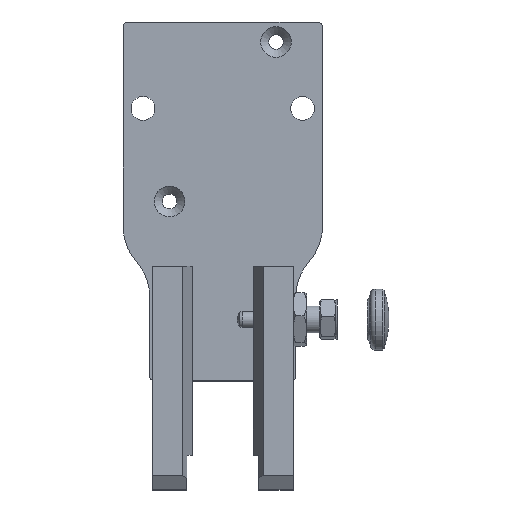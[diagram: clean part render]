
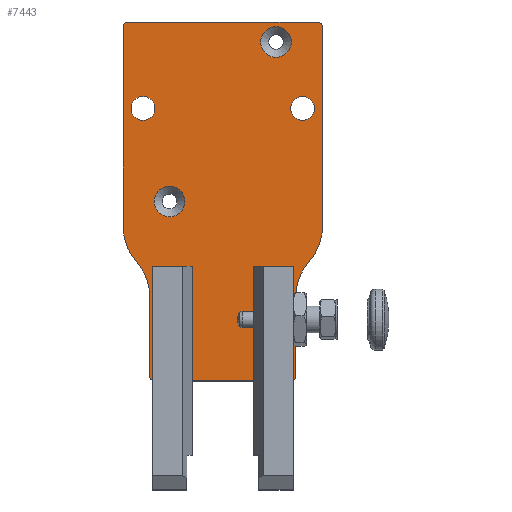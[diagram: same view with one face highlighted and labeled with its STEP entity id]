
A CAD part, top view. The second image highlights one B-rep face of the part: STEP entity #7443.
In plain terms, the highlighted planar face has unit normal (0, 0, 1).
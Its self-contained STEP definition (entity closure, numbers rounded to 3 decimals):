
#752=LINE('',#11282,#1360);
#757=LINE('',#11295,#1365);
#759=LINE('',#11299,#1367);
#782=LINE('',#11393,#1390);
#786=LINE('',#11413,#1394);
#790=LINE('',#11425,#1398);
#799=LINE('',#11458,#1407);
#800=LINE('',#11460,#1408);
#803=LINE('',#11464,#1411);
#834=LINE('',#11638,#1442);
#835=LINE('',#11640,#1443);
#836=LINE('',#11641,#1444);
#1360=VECTOR('',#8671,10.);
#1365=VECTOR('',#8690,10.);
#1367=VECTOR('',#8694,10.);
#1390=VECTOR('',#8763,10.);
#1394=VECTOR('',#8783,10.);
#1398=VECTOR('',#8795,10.);
#1407=VECTOR('',#8830,10.);
#1408=VECTOR('',#8833,10.);
#1411=VECTOR('',#8838,10.);
#1442=VECTOR('',#9003,10.);
#1443=VECTOR('',#9004,10.);
#1444=VECTOR('',#9005,10.);
#1757=FACE_BOUND('',#2443,.T.);
#1758=FACE_BOUND('',#2444,.T.);
#1759=FACE_BOUND('',#2445,.T.);
#1760=FACE_BOUND('',#2446,.T.);
#2016=FACE_OUTER_BOUND('',#2442,.T.);
#2442=EDGE_LOOP('',(#5766,#5767,#5768,#5769,#5770,#5771,#5772,#5773,#5774,
#5775,#5776,#5777,#5778,#5779,#5780,#5781,#5782,#5783,#5784,#5785));
#2443=EDGE_LOOP('',(#5786,#5787));
#2444=EDGE_LOOP('',(#5788,#5789));
#2445=EDGE_LOOP('',(#5790,#5791));
#2446=EDGE_LOOP('',(#5792,#5793));
#2692=CIRCLE('',#7827,2.);
#2693=CIRCLE('',#7830,2.);
#2696=CIRCLE('',#7834,2.);
#2698=CIRCLE('',#7838,2.);
#2701=CIRCLE('',#7843,20.);
#2703=CIRCLE('',#7846,20.);
#2704=CIRCLE('',#7848,20.);
#2706=CIRCLE('',#7851,20.);
#2726=CIRCLE('',#7883,5.75);
#2727=CIRCLE('',#7884,5.75);
#2731=CIRCLE('',#7890,5.75);
#2732=CIRCLE('',#7891,5.75);
#2736=CIRCLE('',#7897,4.5);
#2737=CIRCLE('',#7898,4.5);
#2739=CIRCLE('',#7901,4.5);
#2740=CIRCLE('',#7902,4.5);
#3094=VERTEX_POINT('',#11279);
#3095=VERTEX_POINT('',#11281);
#3096=VERTEX_POINT('',#11293);
#3097=VERTEX_POINT('',#11297);
#3121=VERTEX_POINT('',#11383);
#3124=VERTEX_POINT('',#11391);
#3125=VERTEX_POINT('',#11395);
#3126=VERTEX_POINT('',#11396);
#3128=VERTEX_POINT('',#11403);
#3129=VERTEX_POINT('',#11404);
#3132=VERTEX_POINT('',#11412);
#3134=VERTEX_POINT('',#11418);
#3136=VERTEX_POINT('',#11424);
#3140=VERTEX_POINT('',#11433);
#3141=VERTEX_POINT('',#11435);
#3143=VERTEX_POINT('',#11441);
#3144=VERTEX_POINT('',#11445);
#3146=VERTEX_POINT('',#11451);
#3166=VERTEX_POINT('',#11518);
#3167=VERTEX_POINT('',#11519);
#3171=VERTEX_POINT('',#11532);
#3172=VERTEX_POINT('',#11533);
#3176=VERTEX_POINT('',#11546);
#3177=VERTEX_POINT('',#11547);
#3179=VERTEX_POINT('',#11554);
#3180=VERTEX_POINT('',#11555);
#3202=VERTEX_POINT('',#11637);
#3203=VERTEX_POINT('',#11639);
#3949=EDGE_CURVE('',#3095,#3094,#752,.T.);
#3954=EDGE_CURVE('',#3094,#3096,#757,.T.);
#3956=EDGE_CURVE('',#3096,#3097,#759,.T.);
#3990=EDGE_CURVE('',#3095,#3121,#2692,.T.);
#3995=EDGE_CURVE('',#3097,#3124,#782,.T.);
#3996=EDGE_CURVE('',#3125,#3126,#2693,.T.);
#4000=EDGE_CURVE('',#3128,#3129,#2696,.T.);
#4004=EDGE_CURVE('',#3132,#3129,#786,.T.);
#4007=EDGE_CURVE('',#3132,#3134,#2698,.T.);
#4010=EDGE_CURVE('',#3136,#3134,#790,.T.);
#4015=EDGE_CURVE('',#3140,#3141,#2701,.T.);
#4019=EDGE_CURVE('',#3143,#3140,#2703,.T.);
#4020=EDGE_CURVE('',#3136,#3144,#2704,.T.);
#4023=EDGE_CURVE('',#3144,#3146,#2706,.T.);
#4027=EDGE_CURVE('',#3125,#3146,#799,.T.);
#4028=EDGE_CURVE('',#3143,#3121,#800,.T.);
#4031=EDGE_CURVE('',#3128,#3141,#803,.T.);
#4058=EDGE_CURVE('',#3166,#3167,#2726,.T.);
#4059=EDGE_CURVE('',#3167,#3166,#2727,.T.);
#4065=EDGE_CURVE('',#3171,#3172,#2731,.T.);
#4066=EDGE_CURVE('',#3172,#3171,#2732,.T.);
#4072=EDGE_CURVE('',#3176,#3177,#2736,.T.);
#4073=EDGE_CURVE('',#3177,#3176,#2737,.T.);
#4076=EDGE_CURVE('',#3179,#3180,#2739,.T.);
#4077=EDGE_CURVE('',#3180,#3179,#2740,.T.);
#4109=EDGE_CURVE('',#3124,#3202,#834,.T.);
#4110=EDGE_CURVE('',#3202,#3203,#835,.T.);
#4111=EDGE_CURVE('',#3203,#3126,#836,.T.);
#5766=ORIENTED_EDGE('',*,*,#4109,.T.);
#5767=ORIENTED_EDGE('',*,*,#4110,.T.);
#5768=ORIENTED_EDGE('',*,*,#4111,.T.);
#5769=ORIENTED_EDGE('',*,*,#3996,.F.);
#5770=ORIENTED_EDGE('',*,*,#4027,.T.);
#5771=ORIENTED_EDGE('',*,*,#4023,.F.);
#5772=ORIENTED_EDGE('',*,*,#4020,.F.);
#5773=ORIENTED_EDGE('',*,*,#4010,.T.);
#5774=ORIENTED_EDGE('',*,*,#4007,.F.);
#5775=ORIENTED_EDGE('',*,*,#4004,.T.);
#5776=ORIENTED_EDGE('',*,*,#4000,.F.);
#5777=ORIENTED_EDGE('',*,*,#4031,.T.);
#5778=ORIENTED_EDGE('',*,*,#4015,.F.);
#5779=ORIENTED_EDGE('',*,*,#4019,.F.);
#5780=ORIENTED_EDGE('',*,*,#4028,.T.);
#5781=ORIENTED_EDGE('',*,*,#3990,.F.);
#5782=ORIENTED_EDGE('',*,*,#3949,.T.);
#5783=ORIENTED_EDGE('',*,*,#3954,.T.);
#5784=ORIENTED_EDGE('',*,*,#3956,.T.);
#5785=ORIENTED_EDGE('',*,*,#3995,.T.);
#5786=ORIENTED_EDGE('',*,*,#4076,.T.);
#5787=ORIENTED_EDGE('',*,*,#4077,.T.);
#5788=ORIENTED_EDGE('',*,*,#4072,.T.);
#5789=ORIENTED_EDGE('',*,*,#4073,.T.);
#5790=ORIENTED_EDGE('',*,*,#4065,.T.);
#5791=ORIENTED_EDGE('',*,*,#4066,.T.);
#5792=ORIENTED_EDGE('',*,*,#4058,.T.);
#5793=ORIENTED_EDGE('',*,*,#4059,.T.);
#6727=PLANE('',#7922);
#7443=ADVANCED_FACE('',(#2016,#1757,#1758,#1759,#1760),#6727,.T.);
#7827=AXIS2_PLACEMENT_3D('',#11384,#8755,#8756);
#7830=AXIS2_PLACEMENT_3D('',#11397,#8766,#8767);
#7834=AXIS2_PLACEMENT_3D('',#11405,#8775,#8776);
#7838=AXIS2_PLACEMENT_3D('',#11419,#8788,#8789);
#7843=AXIS2_PLACEMENT_3D('',#11436,#8803,#8804);
#7846=AXIS2_PLACEMENT_3D('',#11443,#8811,#8812);
#7848=AXIS2_PLACEMENT_3D('',#11446,#8815,#8816);
#7851=AXIS2_PLACEMENT_3D('',#11452,#8822,#8823);
#7883=AXIS2_PLACEMENT_3D('',#11520,#8901,#8902);
#7884=AXIS2_PLACEMENT_3D('',#11521,#8903,#8904);
#7890=AXIS2_PLACEMENT_3D('',#11534,#8917,#8918);
#7891=AXIS2_PLACEMENT_3D('',#11535,#8919,#8920);
#7897=AXIS2_PLACEMENT_3D('',#11548,#8933,#8934);
#7898=AXIS2_PLACEMENT_3D('',#11549,#8935,#8936);
#7901=AXIS2_PLACEMENT_3D('',#11556,#8942,#8943);
#7902=AXIS2_PLACEMENT_3D('',#11557,#8944,#8945);
#7922=AXIS2_PLACEMENT_3D('',#11636,#9001,#9002);
#8671=DIRECTION('',(0.,1.,0.));
#8690=DIRECTION('',(1.,0.,0.));
#8694=DIRECTION('',(0.,-1.,0.));
#8755=DIRECTION('center_axis',(0.,0.,-1.));
#8756=DIRECTION('ref_axis',(-0.707,-0.707,0.));
#8763=DIRECTION('',(1.,0.,0.));
#8766=DIRECTION('center_axis',(0.,0.,-1.));
#8767=DIRECTION('ref_axis',(0.707,-0.707,0.));
#8775=DIRECTION('center_axis',(0.,0.,-1.));
#8776=DIRECTION('ref_axis',(-0.707,0.707,0.));
#8783=DIRECTION('',(-1.,0.,0.));
#8788=DIRECTION('center_axis',(0.,0.,-1.));
#8789=DIRECTION('ref_axis',(0.707,0.707,0.));
#8795=DIRECTION('',(0.,1.,0.));
#8803=DIRECTION('center_axis',(0.,0.,-1.));
#8804=DIRECTION('ref_axis',(1.,0.,0.));
#8811=DIRECTION('center_axis',(0.,0.,1.));
#8812=DIRECTION('ref_axis',(0.924,0.383,0.));
#8815=DIRECTION('center_axis',(0.,0.,-1.));
#8816=DIRECTION('ref_axis',(-1.,0.,0.));
#8822=DIRECTION('center_axis',(0.,0.,1.));
#8823=DIRECTION('ref_axis',(-0.924,0.383,0.));
#8830=DIRECTION('',(0.,1.,0.));
#8833=DIRECTION('',(0.,-1.,0.));
#8838=DIRECTION('',(0.,-1.,0.));
#8901=DIRECTION('center_axis',(0.,0.,-1.));
#8902=DIRECTION('ref_axis',(1.,0.,0.));
#8903=DIRECTION('center_axis',(0.,0.,-1.));
#8904=DIRECTION('ref_axis',(1.,0.,0.));
#8917=DIRECTION('center_axis',(0.,0.,-1.));
#8918=DIRECTION('ref_axis',(1.,0.,0.));
#8919=DIRECTION('center_axis',(0.,0.,-1.));
#8920=DIRECTION('ref_axis',(1.,0.,0.));
#8933=DIRECTION('center_axis',(0.,0.,-1.));
#8934=DIRECTION('ref_axis',(1.,0.,0.));
#8935=DIRECTION('center_axis',(0.,0.,-1.));
#8936=DIRECTION('ref_axis',(1.,0.,0.));
#8942=DIRECTION('center_axis',(0.,0.,-1.));
#8943=DIRECTION('ref_axis',(1.,0.,0.));
#8944=DIRECTION('center_axis',(0.,0.,-1.));
#8945=DIRECTION('ref_axis',(1.,0.,0.));
#9001=DIRECTION('center_axis',(0.,0.,1.));
#9002=DIRECTION('ref_axis',(1.,0.,0.));
#9003=DIRECTION('',(0.,1.,0.));
#9004=DIRECTION('',(1.,0.,0.));
#9005=DIRECTION('',(0.,-1.,0.));
#11279=CARTESIAN_POINT('',(-26.5,-24.5,6.));
#11281=CARTESIAN_POINT('',(-26.5,-67.232,6.));
#11282=CARTESIAN_POINT('',(-26.5,-12.25,6.));
#11293=CARTESIAN_POINT('',(-11.5,-24.5,6.));
#11295=CARTESIAN_POINT('',(-5.75,-24.5,6.));
#11297=CARTESIAN_POINT('',(-11.5,-67.5,6.));
#11299=CARTESIAN_POINT('',(-11.5,-54.25,6.));
#11383=CARTESIAN_POINT('',(-27.5,-65.5,6.));
#11384=CARTESIAN_POINT('Origin',(-25.5,-65.5,6.));
#11391=CARTESIAN_POINT('',(11.5,-67.5,6.));
#11393=CARTESIAN_POINT('',(-37.5,-67.5,6.));
#11395=CARTESIAN_POINT('',(27.5,-65.5,6.));
#11396=CARTESIAN_POINT('',(26.5,-67.232,6.));
#11397=CARTESIAN_POINT('Origin',(25.5,-65.5,6.));
#11403=CARTESIAN_POINT('',(-37.5,65.5,6.));
#11404=CARTESIAN_POINT('',(-35.5,67.5,6.));
#11405=CARTESIAN_POINT('Origin',(-35.5,65.5,6.));
#11412=CARTESIAN_POINT('',(35.5,67.5,6.));
#11413=CARTESIAN_POINT('',(37.5,67.5,6.));
#11418=CARTESIAN_POINT('',(37.5,65.5,6.));
#11419=CARTESIAN_POINT('Origin',(35.5,65.5,6.));
#11424=CARTESIAN_POINT('',(37.5,-9.327,6.));
#11425=CARTESIAN_POINT('',(37.5,-67.5,6.));
#11433=CARTESIAN_POINT('',(-32.5,-22.556,6.));
#11435=CARTESIAN_POINT('',(-37.5,-9.327,6.));
#11436=CARTESIAN_POINT('Origin',(-17.5,-9.327,6.));
#11441=CARTESIAN_POINT('',(-27.5,-35.784,6.));
#11443=CARTESIAN_POINT('Origin',(-47.5,-35.784,6.));
#11445=CARTESIAN_POINT('',(32.5,-22.556,6.));
#11446=CARTESIAN_POINT('Origin',(17.5,-9.327,6.));
#11451=CARTESIAN_POINT('',(27.5,-35.784,6.));
#11452=CARTESIAN_POINT('Origin',(47.5,-35.784,6.));
#11458=CARTESIAN_POINT('',(27.5,-33.75,6.));
#11460=CARTESIAN_POINT('',(-27.5,-13.75,6.));
#11464=CARTESIAN_POINT('',(-37.5,67.5,6.));
#11518=CARTESIAN_POINT('',(25.75,60.,6.));
#11519=CARTESIAN_POINT('',(14.25,60.,6.));
#11520=CARTESIAN_POINT('Origin',(20.,60.,6.));
#11521=CARTESIAN_POINT('Origin',(20.,60.,6.));
#11532=CARTESIAN_POINT('',(-14.25,0.,6.));
#11533=CARTESIAN_POINT('',(-25.75,0.,6.));
#11534=CARTESIAN_POINT('Origin',(-20.,0.,6.));
#11535=CARTESIAN_POINT('Origin',(-20.,0.,6.));
#11546=CARTESIAN_POINT('',(-25.5,35.,6.));
#11547=CARTESIAN_POINT('',(-34.5,35.,6.));
#11548=CARTESIAN_POINT('Origin',(-30.,35.,6.));
#11549=CARTESIAN_POINT('Origin',(-30.,35.,6.));
#11554=CARTESIAN_POINT('',(34.5,35.,6.));
#11555=CARTESIAN_POINT('',(25.5,35.,6.));
#11556=CARTESIAN_POINT('Origin',(30.,35.,6.));
#11557=CARTESIAN_POINT('Origin',(30.,35.,6.));
#11636=CARTESIAN_POINT('Origin',(0.,0.,
6.));
#11637=CARTESIAN_POINT('',(11.5,-24.5,6.));
#11638=CARTESIAN_POINT('',(11.5,-12.25,6.));
#11639=CARTESIAN_POINT('',(26.5,-24.5,6.));
#11640=CARTESIAN_POINT('',(13.25,-24.5,6.));
#11641=CARTESIAN_POINT('',(26.5,-54.25,6.));
